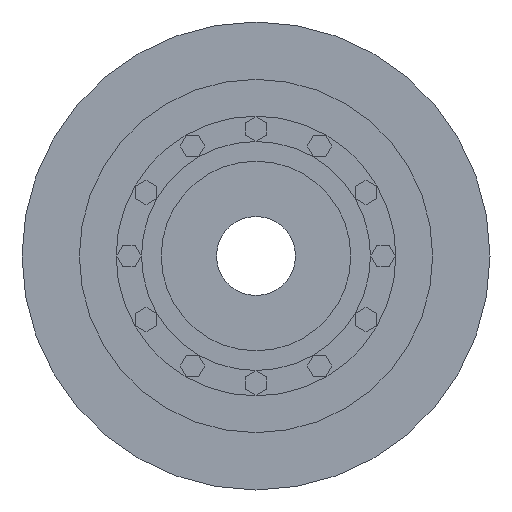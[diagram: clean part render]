
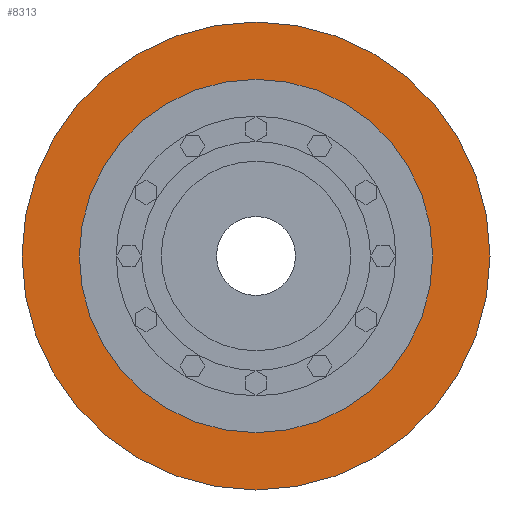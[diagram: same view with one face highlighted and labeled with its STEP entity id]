
A CAD part, left-side view. The second image highlights one B-rep face of the part: STEP entity #8313.
In plain terms, the highlighted planar face has unit normal (-1, 0, 0).
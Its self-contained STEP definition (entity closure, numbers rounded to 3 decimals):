
#8110=CARTESIAN_POINT('',(-45.,0.,0.));
#8111=DIRECTION('',(-1.,0.,0.));
#8112=DIRECTION('',(0.,1.,0.));
#8113=AXIS2_PLACEMENT_3D('',#8110,#8111,#8112);
#8115=CARTESIAN_POINT('',(-45.,0.,0.));
#8116=DIRECTION('',(1.,0.,0.));
#8117=DIRECTION('',(0.,1.,0.));
#8118=AXIS2_PLACEMENT_3D('',#8115,#8116,#8117);
#8120=CARTESIAN_POINT('',(-45.,0.,0.));
#8121=DIRECTION('',(1.,0.,0.));
#8122=DIRECTION('',(0.,1.,0.));
#8123=AXIS2_PLACEMENT_3D('',#8120,#8121,#8122);
#8133=CARTESIAN_POINT('',(-45.,0.,0.));
#8134=DIRECTION('',(-1.,0.,0.));
#8135=DIRECTION('',(0.,1.,0.));
#8136=AXIS2_PLACEMENT_3D('',#8133,#8134,#8135);
#8156=CARTESIAN_POINT('',(-45.,268.4,0.));
#8158=VERTEX_POINT('',#8156);
#8168=CARTESIAN_POINT('',(-45.,-268.4,0.));
#8170=VERTEX_POINT('',#8168);
#8173=CARTESIAN_POINT('',(-45.,355.5,0.));
#8175=VERTEX_POINT('',#8173);
#8177=CARTESIAN_POINT('',(-45.,-355.5,0.));
#8179=VERTEX_POINT('',#8177);
#8298=CARTESIAN_POINT('',(-45.,0.,0.));
#8299=DIRECTION('',(1.,0.,0.));
#8300=DIRECTION('',(0.,-1.,0.));
#8301=AXIS2_PLACEMENT_3D('',#8298,#8299,#8300);
#8302=PLANE('',#8301);
#8303=ORIENTED_EDGE('',*,*,#8291,.F.);
#8304=ORIENTED_EDGE('',*,*,#8280,.T.);
#8305=EDGE_LOOP('',(#8303,#8304));
#8306=FACE_OUTER_BOUND('',#8305,.F.);
#8308=ORIENTED_EDGE('',*,*,#8307,.F.);
#8310=ORIENTED_EDGE('',*,*,#8309,.T.);
#8311=EDGE_LOOP('',(#8308,#8310));
#8312=FACE_BOUND('',#8311,.F.);
#8313=ADVANCED_FACE('',(#8306,#8312),#8302,.F.);
#8114=CIRCLE('',#8113,355.5);
#8119=CIRCLE('',#8118,355.5);
#8124=CIRCLE('',#8123,268.4);
#8137=CIRCLE('',#8136,268.4);
#8280=EDGE_CURVE('',#8175,#8179,#8119,.T.);
#8291=EDGE_CURVE('',#8175,#8179,#8114,.T.);
#8307=EDGE_CURVE('',#8158,#8170,#8124,.T.);
#8309=EDGE_CURVE('',#8158,#8170,#8137,.T.);
